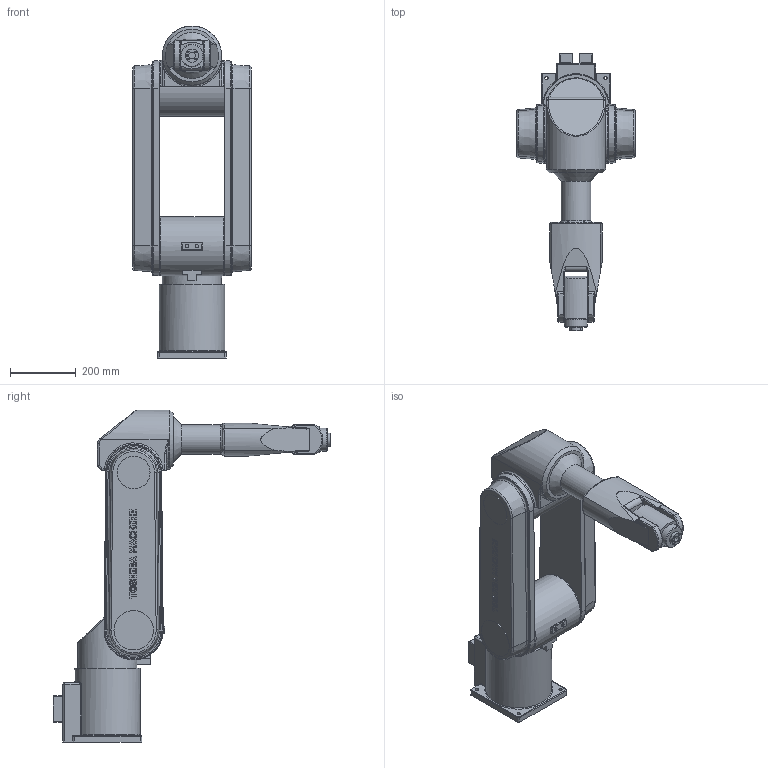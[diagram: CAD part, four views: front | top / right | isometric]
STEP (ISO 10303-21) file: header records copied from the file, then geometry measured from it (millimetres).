
FILE_DESCRIPTION((''),'2;1');
FILE_NAME('D:\Robotech\共用零件\TOSHIBA 手臂\TV1000.stp；.stp','2012-11-15T17:05:24',('Allen'),(''),'Autodesk Inventor 2011','Autodesk Inventor 2011','');
FILE_SCHEMA(('AUTOMOTIVE_DESIGN { 1 0 10303 214 1 1 1 1 }'));
Length unit declared in the file: millimetre
Products named in the file (8): TV1000; TV1000底座; TV1000第一軸; TV1000第二軸; TV1000第三軸; TV1000第四軸; TV1000第五軸; TV1000第六軸
Assembly tree (7 placements, depth 2):
  TV1000
    TV1000底座
    TV1000第一軸
    TV1000第二軸
    TV1000第三軸
    TV1000第四軸
    TV1000第五軸
    TV1000第六軸
Bounding box: 362.1 x 845 x 1010 mm (x, y, z)
Volume: 41665189.4 mm3; surface area: 1693285.3 mm2
Topology: 8 solids, 8 shells, 823 faces, 2096 edges, 1351 vertices
Faces by surface type: plane 442, bspline 181, cylinder 131, torus 51, cone 16, sphere 2
Full cylindrical faces by diameter (mm): 4.134 x4, 5 x1, 10 x6, 20 x1, 28.244 x1, 30 x1, 40 x1, 50 x2, 70 x1, 90 x1, 100 x3, 120 x2, 170 x1, 180 x3, 200 x1
Entity records: 29003 total; most frequent: CARTESIAN_POINT 9679, ORIENTED_EDGE 4080, DIRECTION 3254, EDGE_CURVE 2040, VERTEX_POINT 1339, VECTOR 1306, LINE 1306, AXIS2_PLACEMENT_3D 974
